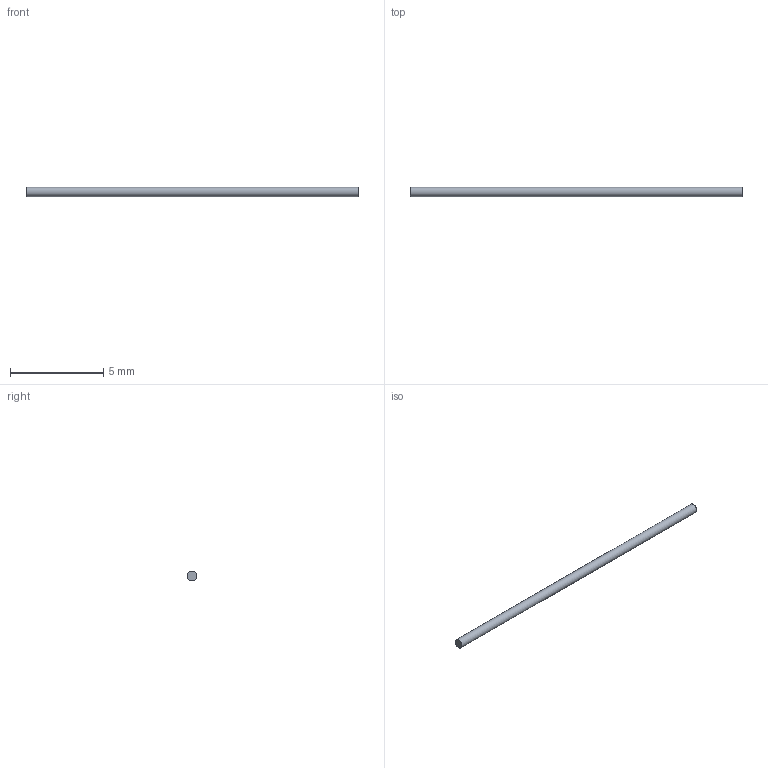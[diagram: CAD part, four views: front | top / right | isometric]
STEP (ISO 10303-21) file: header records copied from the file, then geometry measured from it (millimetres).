
FILE_DESCRIPTION(('FreeCAD Model'),'2;1');
FILE_NAME('Open CASCADE Shape Model','2026-04-07T19:07:43',('FreeCAD'),( 'FreeCAD'),'Open CASCADE STEP processor 7.8','FreeCAD','Unknown');
FILE_SCHEMA(('AUTOMOTIVE_DESIGN { 1 0 10303 214 1 1 1 1 }'));
Length unit declared in the file: millimetre
Products named in the file (1): Open CASCADE STEP translator 7.8 22
Bounding box: 17.78 x 0.5 x 0.5 mm (x, y, z)
Volume: 3.5 mm3; surface area: 28.3 mm2
Topology: 1 solids, 1 shells, 3 faces, 3 edges, 2 vertices
Faces by surface type: plane 2, cylinder 1
Full cylindrical faces by diameter (mm): 0.5 x1
Entity records: 69 total; most frequent: DIRECTION 13, CARTESIAN_POINT 9, AXIS2_PLACEMENT_3D 6, ORIENTED_EDGE 6, ADVANCED_FACE 3, FACE_BOUND 3, EDGE_LOOP 3, EDGE_CURVE 3
